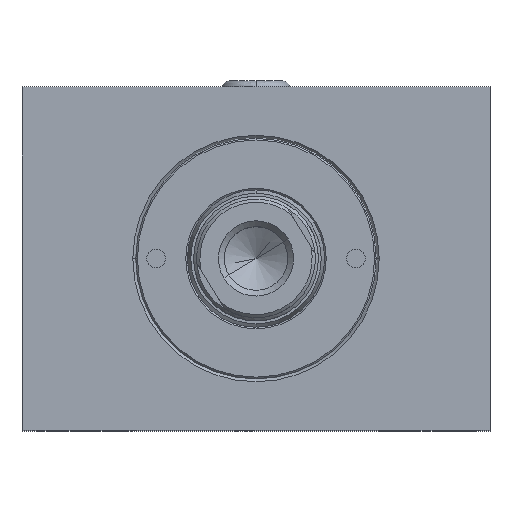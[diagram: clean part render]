
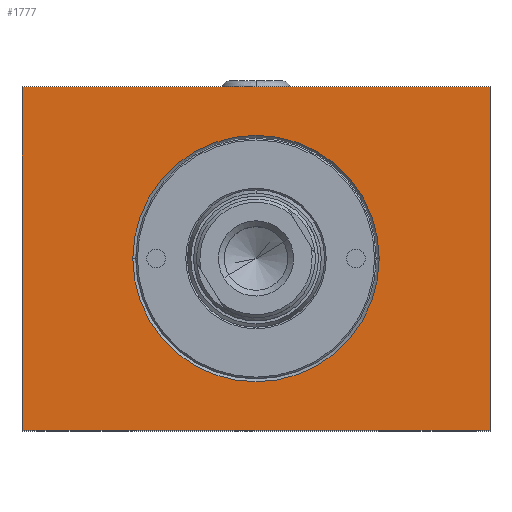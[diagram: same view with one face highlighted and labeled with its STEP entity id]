
A CAD part, top view. The second image highlights one B-rep face of the part: STEP entity #1777.
In plain terms, the highlighted planar face has unit normal (0, 0, 1).
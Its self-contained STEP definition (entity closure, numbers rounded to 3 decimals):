
#454 = EDGE_CURVE ( 'NONE', #7594, #5314, #12551, .T. ) ;
#1508 = CARTESIAN_POINT ( 'NONE',  ( 0., 0., 85. ) ) ;
#1777 = ADVANCED_FACE ( 'NONE', ( #7793, #6084 ), #10338, .F. ) ;
#2232 = CARTESIAN_POINT ( 'NONE',  ( 75., 0., 85. ) ) ;
#2718 = LINE ( 'NONE', #10634, #12038 ) ;
#3483 = LINE ( 'NONE', #1508, #6631 ) ;
#4223 = CARTESIAN_POINT ( 'NONE',  ( 37.5, 27.5, 85. ) ) ;
#4308 = CARTESIAN_POINT ( 'NONE',  ( 0., 0., 85. ) ) ;
#4465 = VECTOR ( 'NONE', #9672, 1000. ) ;
#4509 = DIRECTION ( 'NONE',  ( 0., -1., 0. ) ) ;
#4998 = ORIENTED_EDGE ( 'NONE', *, *, #8319, .T. ) ;
#5165 = EDGE_LOOP ( 'NONE', ( #9730, #7625, #9654, #4998 ) ) ;
#5228 = DIRECTION ( 'NONE',  ( -1., 0., 0. ) ) ;
#5314 = VERTEX_POINT ( 'NONE', #7876 ) ;
#5315 = DIRECTION ( 'NONE',  ( 0., 0., -1. ) ) ;
#5377 = VERTEX_POINT ( 'NONE', #10174 ) ;
#5660 = CARTESIAN_POINT ( 'NONE',  ( 75., 0., 85. ) ) ;
#5805 = CARTESIAN_POINT ( 'NONE',  ( 37.5, 27.5, 85. ) ) ;
#6084 = FACE_OUTER_BOUND ( 'NONE', #5165, .T. ) ;
#6247 = CARTESIAN_POINT ( 'NONE',  ( 0., 55., 85. ) ) ;
#6476 = EDGE_CURVE ( 'NONE', #6516, #12462, #10720, .T. ) ;
#6516 = VERTEX_POINT ( 'NONE', #7990 ) ;
#6571 = CARTESIAN_POINT ( 'NONE',  ( 0., 55., 85. ) ) ;
#6631 = VECTOR ( 'NONE', #12596, 1000. ) ;
#6642 = AXIS2_PLACEMENT_3D ( 'NONE', #4223, #11270, #5228 ) ;
#7191 = ORIENTED_EDGE ( 'NONE', *, *, #6476, .T. ) ;
#7457 = DIRECTION ( 'NONE',  ( -1., 0., 0. ) ) ;
#7594 = VERTEX_POINT ( 'NONE', #2232 ) ;
#7625 = ORIENTED_EDGE ( 'NONE', *, *, #11258, .T. ) ;
#7641 = AXIS2_PLACEMENT_3D ( 'NONE', #4308, #5315, #7457 ) ;
#7734 = CIRCLE ( 'NONE', #6642, 19.75 ) ;
#7764 = DIRECTION ( 'NONE',  ( 0., 1., 0. ) ) ;
#7793 = FACE_BOUND ( 'NONE', #12615, .T. ) ;
#7876 = CARTESIAN_POINT ( 'NONE',  ( 75., 55., 85. ) ) ;
#7958 = ORIENTED_EDGE ( 'NONE', *, *, #10843, .T. ) ;
#7990 = CARTESIAN_POINT ( 'NONE',  ( 17.75, 27.5, 85. ) ) ;
#8319 = EDGE_CURVE ( 'NONE', #5314, #10856, #10140, .T. ) ;
#8844 = DIRECTION ( 'NONE',  ( 0., 0., -1. ) ) ;
#8953 = EDGE_CURVE ( 'NONE', #10856, #5377, #2718, .T. ) ;
#9654 = ORIENTED_EDGE ( 'NONE', *, *, #454, .T. ) ;
#9672 = DIRECTION ( 'NONE',  ( -1., 0., 0. ) ) ;
#9730 = ORIENTED_EDGE ( 'NONE', *, *, #8953, .T. ) ;
#10140 = LINE ( 'NONE', #6571, #4465 ) ;
#10174 = CARTESIAN_POINT ( 'NONE',  ( 0., 0., 85. ) ) ;
#10338 = PLANE ( 'NONE',  #7641 ) ;
#10575 = CARTESIAN_POINT ( 'NONE',  ( 57.25, 27.5, 85. ) ) ;
#10634 = CARTESIAN_POINT ( 'NONE',  ( 0., 0., 85. ) ) ;
#10720 = CIRCLE ( 'NONE', #11528, 19.75 ) ;
#10843 = EDGE_CURVE ( 'NONE', #12462, #6516, #7734, .T. ) ;
#10856 = VERTEX_POINT ( 'NONE', #6247 ) ;
#11258 = EDGE_CURVE ( 'NONE', #5377, #7594, #3483, .T. ) ;
#11270 = DIRECTION ( 'NONE',  ( 0., 0., -1. ) ) ;
#11528 = AXIS2_PLACEMENT_3D ( 'NONE', #5805, #8844, #13076 ) ;
#12038 = VECTOR ( 'NONE', #4509, 1000. ) ;
#12238 = VECTOR ( 'NONE', #7764, 1000. ) ;
#12462 = VERTEX_POINT ( 'NONE', #10575 ) ;
#12551 = LINE ( 'NONE', #5660, #12238 ) ;
#12596 = DIRECTION ( 'NONE',  ( 1., 0., 0. ) ) ;
#12615 = EDGE_LOOP ( 'NONE', ( #7958, #7191 ) ) ;
#13076 = DIRECTION ( 'NONE',  ( -1., 0., 0. ) ) ;
